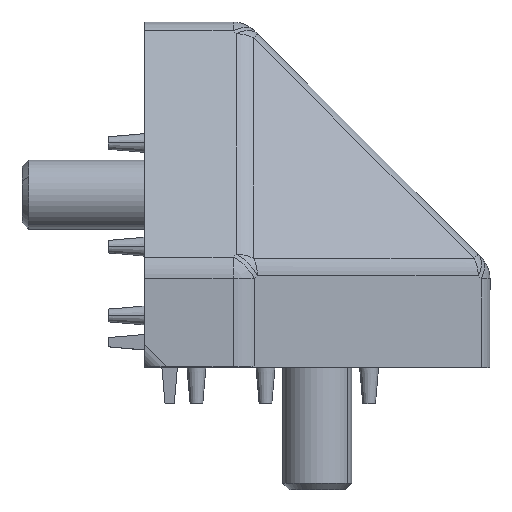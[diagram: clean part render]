
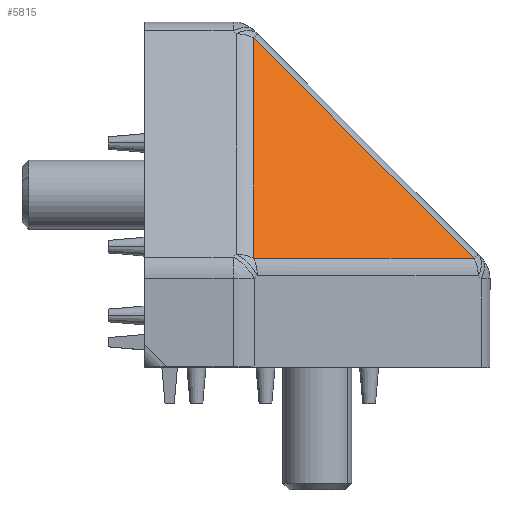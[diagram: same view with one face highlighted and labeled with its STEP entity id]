
A CAD part, top view. The second image highlights one B-rep face of the part: STEP entity #5815.
In plain terms, the highlighted planar face has unit normal (0.577, 0.577, 0.577) as drawn and (0.577, 0.577, -0.577) by its records, which use the part's own axes.
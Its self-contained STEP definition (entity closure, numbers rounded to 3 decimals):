
#54 = LINE ( 'NONE', #5237, #6079 ) ;
#511 = VECTOR ( 'NONE', #620, 1000. ) ;
#620 = DIRECTION ( 'NONE',  ( 0., -0.707, -0.707 ) ) ;
#1620 = ORIENTED_EDGE ( 'NONE', *, *, #3045, .F. ) ;
#2480 = LINE ( 'NONE', #3608, #511 ) ;
#3045 = EDGE_CURVE ( 'NONE', #5424, #7342, #54, .T. ) ;
#3575 = VECTOR ( 'NONE', #6047, 1000. ) ;
#3608 = CARTESIAN_POINT ( 'NONE',  ( 12.608, 39.546, -11.246 ) ) ;
#4021 = CARTESIAN_POINT ( 'NONE',  ( 12.608, 38.183, -12.608 ) ) ;
#4277 = AXIS2_PLACEMENT_3D ( 'NONE', #9528, #9563, #5047 ) ;
#4288 = PLANE ( 'NONE',  #4277 ) ;
#4428 = CARTESIAN_POINT ( 'NONE',  ( 38.183, 12.608, -12.608 ) ) ;
#5047 = DIRECTION ( 'NONE',  ( 0., -0.707, -0.707 ) ) ;
#5237 = CARTESIAN_POINT ( 'NONE',  ( 38.183, 12.608, -12.608 ) ) ;
#5288 = CARTESIAN_POINT ( 'NONE',  ( 12.608, 12.608, -38.183 ) ) ;
#5375 = DIRECTION ( 'NONE',  ( -0.707, 0.707, 0. ) ) ;
#5424 = VERTEX_POINT ( 'NONE', #4428 ) ;
#5634 = VERTEX_POINT ( 'NONE', #9441 ) ;
#5815 = ADVANCED_FACE ( 'Fl_che4', ( #8962 ), #4288, .F. ) ;
#6047 = DIRECTION ( 'NONE',  ( 0.707, 0., 0.707 ) ) ;
#6079 = VECTOR ( 'NONE', #5375, 1000. ) ;
#6698 = EDGE_LOOP ( 'NONE', ( #6856, #1620, #8147 ) ) ;
#6856 = ORIENTED_EDGE ( 'NONE', *, *, #9555, .F. ) ;
#7156 = EDGE_CURVE ( 'NONE', #5634, #5424, #9625, .T. ) ;
#7342 = VERTEX_POINT ( 'NONE', #4021 ) ;
#8147 = ORIENTED_EDGE ( 'NONE', *, *, #7156, .F. ) ;
#8962 = FACE_OUTER_BOUND ( 'NONE', #6698, .T. ) ;
#9441 = CARTESIAN_POINT ( 'NONE',  ( 12.608, 12.608, -38.183 ) ) ;
#9528 = CARTESIAN_POINT ( 'NONE',  ( 11.7, 40., -11.7 ) ) ;
#9555 = EDGE_CURVE ( 'NONE', #7342, #5634, #2480, .T. ) ;
#9563 = DIRECTION ( 'NONE',  ( -0.577, -0.577, 0.577 ) ) ;
#9625 = LINE ( 'NONE', #5288, #3575 ) ;
